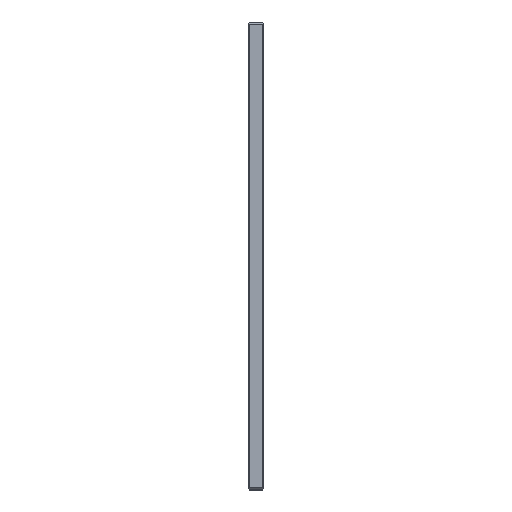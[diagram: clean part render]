
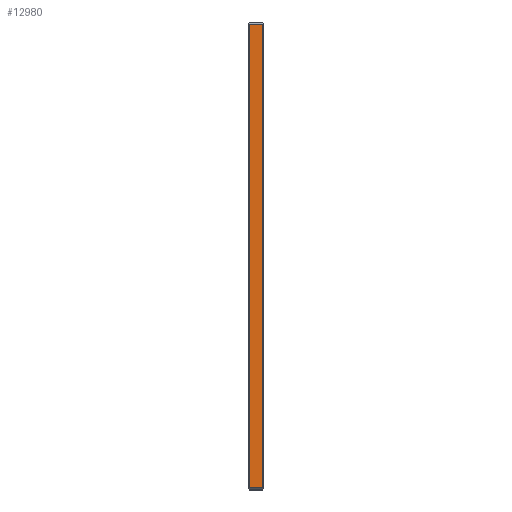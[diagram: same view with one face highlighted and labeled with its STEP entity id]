
A CAD part, top view. The second image highlights one B-rep face of the part: STEP entity #12980.
In plain terms, the highlighted planar face has unit normal (0, 0, 1).
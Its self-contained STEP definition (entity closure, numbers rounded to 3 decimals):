
#3922=FACE_OUTER_BOUND($,#5565,.T.);
#5565=EDGE_LOOP($,(#10975,#10976,#10977,#10978));
#7524=LINE($,#20897,#7564);
#7532=LINE($,#21562,#7572);
#7537=LINE($,#21572,#7577);
#7555=LINE($,#22256,#7595);
#7564=VECTOR($,#16266,13.);
#7572=VECTOR($,#16928,446.);
#7577=VECTOR($,#16935,13.);
#7595=VECTOR($,#17619,446.);
#7603=VERTEX_POINT($,#20894);
#7604=VERTEX_POINT($,#20896);
#7934=VERTEX_POINT($,#21560);
#7938=VERTEX_POINT($,#21570);
#8928=EDGE_CURVE($,#7603,#7604,#7524,.T.);
#9261=EDGE_CURVE($,#7934,#7603,#7532,.T.);
#9266=EDGE_CURVE($,#7938,#7934,#7537,.T.);
#9609=EDGE_CURVE($,#7604,#7938,#7555,.T.);
#10975=ORIENTED_EDGE($,*,*,#9261,.F.);
#10976=ORIENTED_EDGE($,*,*,#9266,.F.);
#10977=ORIENTED_EDGE($,*,*,#9609,.F.);
#10978=ORIENTED_EDGE($,*,*,#8928,.F.);
#12957=PLANE($,#14626);
#12980=ADVANCED_FACE($,(#3922),#12957,.T.);
#14626=AXIS2_PLACEMENT_3D($,#22261,#17624,#17625);
#16266=DIRECTION($,(1.,0.,0.));
#16928=DIRECTION($,(0.,1.,0.));
#16935=DIRECTION($,(-1.,0.,0.));
#17619=DIRECTION($,(0.,-1.,0.));
#17624=DIRECTION('center_axis',(0.,0.,1.));
#17625=DIRECTION('ref_axis',(0.,-1.,0.));
#20894=CARTESIAN_POINT('',(1.,448.,450.));
#20896=CARTESIAN_POINT('',(14.,448.,450.));
#20897=CARTESIAN_POINT($,(0.,448.,450.));
#21560=CARTESIAN_POINT('',(1.,2.,450.));
#21562=CARTESIAN_POINT($,(1.,337.5,450.));
#21570=CARTESIAN_POINT('',(14.,2.,450.));
#21572=CARTESIAN_POINT($,(0.,2.,450.));
#22256=CARTESIAN_POINT($,(14.,337.5,450.));
#22261=CARTESIAN_POINT('Origin',(0.,450.,450.));
